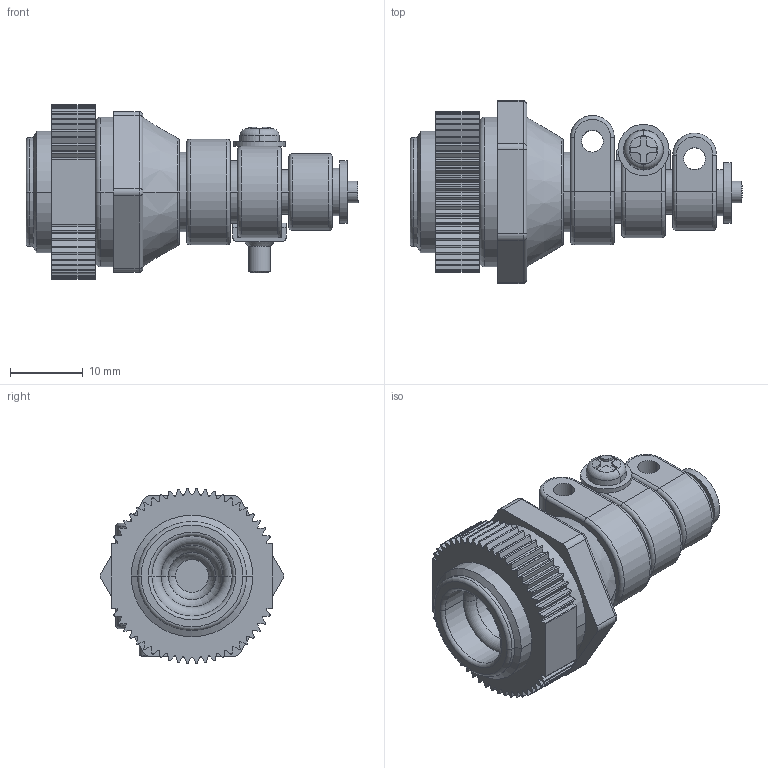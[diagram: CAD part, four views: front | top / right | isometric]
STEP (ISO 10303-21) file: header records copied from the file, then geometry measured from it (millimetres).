
FILE_DESCRIPTION(('Creo Elements/Direct Modeling STEP Export'),'2;1');
FILE_NAME('20130705_OA-05.stp','2013-09-18T16:09:55',(''),(''),'Creo Elements/Direct Modeling STEP processor for AP214 (Solid Model)','Creo Elements/Direct Modeling 18.1B 29-Sep-2012 (C) Parametric Technology GmbH','');
FILE_SCHEMA(('AUTOMOTIVE_DESIGN { 1 0 10303 214 1 1 1 1 }'));
Length unit declared in the file: millimetre
Products named in the file (6): M3なべこねじ; M3プレスナット; 平ワッシャー; OA-05_本体; OA-05_ロックナット; OA-05
Assembly tree (5 placements, depth 2):
  OA-05
    OA-05_ロックナット
    OA-05_本体
    平ワッシャー
    M3プレスナット
    M3なべこねじ
Bounding box: 45.5 x 25.09 x 23.97 mm (x, y, z)
Volume: 7840.4 mm3; surface area: 6642.2 mm2
Topology: 5 solids, 5 shells, 419 faces, 1141 edges, 733 vertices
Faces by surface type: cylinder 191, plane 164, torus 36, cone 14, bspline 12, sphere 2
Entity records: 13983 total; most frequent: CARTESIAN_POINT 3333, ORIENTED_EDGE 2274, DIRECTION 2206, EDGE_CURVE 1137, AXIS2_PLACEMENT_3D 800, VERTEX_POINT 731, VECTOR 606, LINE 606
